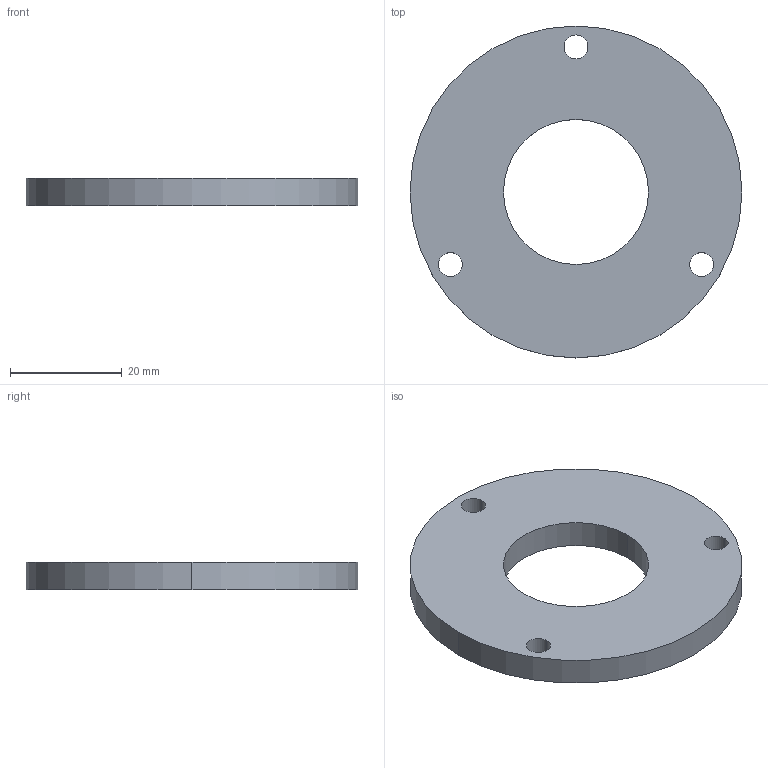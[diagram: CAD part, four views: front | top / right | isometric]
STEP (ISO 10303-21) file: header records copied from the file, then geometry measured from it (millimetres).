
FILE_DESCRIPTION (( 'STEP AP214' ), '1' );
FILE_NAME ('Flansch 0008.STEP', '2025-03-25T12:42:59', ( '' ), ( '' ), 'SwSTEP 2.0', 'SolidWorks 2022', '' );
FILE_SCHEMA (( 'AUTOMOTIVE_DESIGN' ));
Length unit declared in the file: millimetre
Products named in the file (1): Flansch 0008
Bounding box: 59.5 x 59.5 x 5 mm (x, y, z)
Volume: 11030.1 mm3; surface area: 5957.7 mm2
Topology: 1 solids, 1 shells, 12 faces, 30 edges, 20 vertices
Faces by surface type: cylinder 10, plane 2
Entity records: 424 total; most frequent: DIRECTION 76, CARTESIAN_POINT 63, ORIENTED_EDGE 60, AXIS2_PLACEMENT_3D 33, EDGE_CURVE 30, CIRCLE 20, VERTEX_POINT 20, EDGE_LOOP 20
